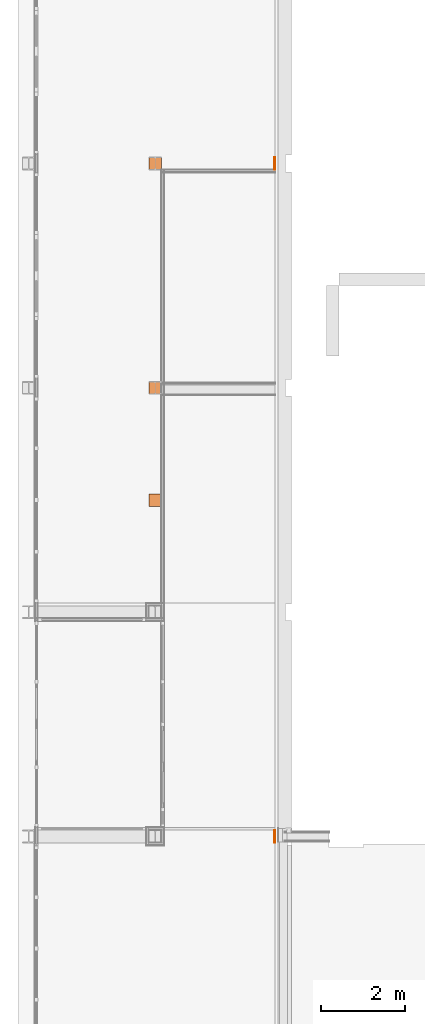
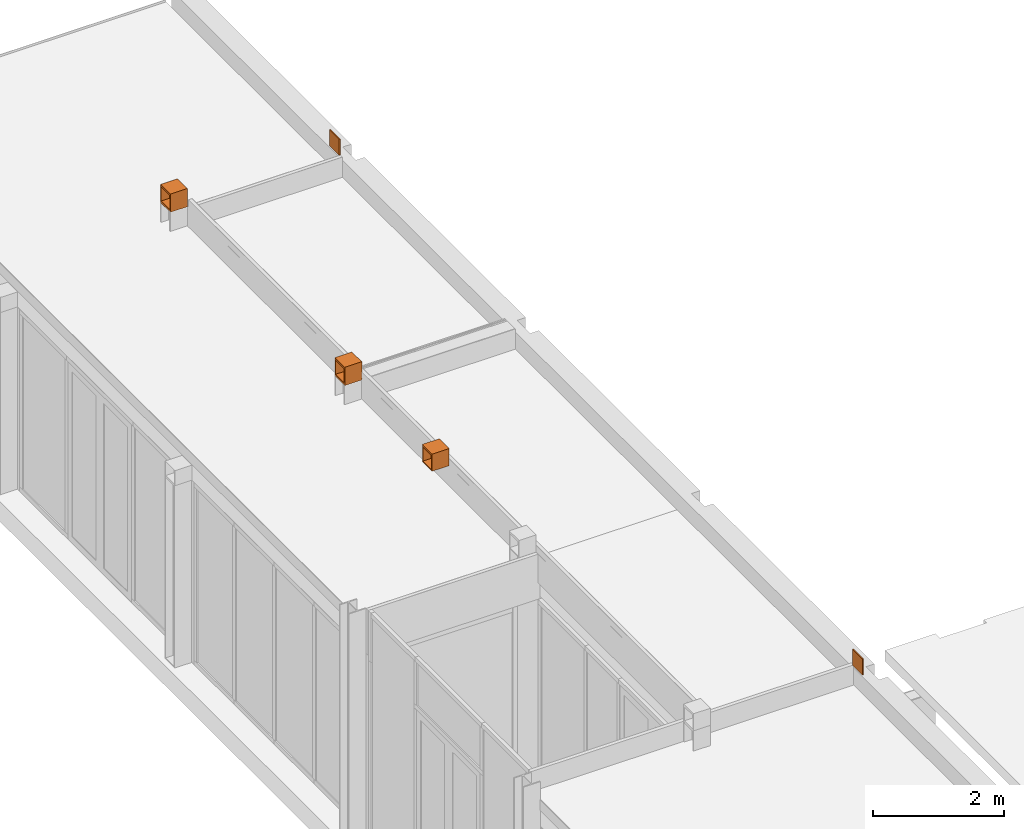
# One storey, part 99 of 99: 5 proxies.
"""IFC2X3 building model written with IfcOpenShell, lengths in millimetres."""

from ifc_helpers import new_model, entity, si_unit, converted_unit, derived_unit, money_unit, direction, frame, origin_with_axes, place, context, subcontext, project, spatial, faceted_brep, material, type_object, element, save


model = new_model("IFC2X3")

# Units and contexts
model_context = context("Model", 3, precision=0.01, world=origin_with_axes(), true_north=direction((0.0, 1.0)))
body_context = subcontext(model_context, "Body", "Model", "MODEL_VIEW")
ifc_project = project(units=[si_unit("LENGTHUNIT", "METRE", prefix="MILLI"), si_unit("AREAUNIT", "SQUARE_METRE"), si_unit("VOLUMEUNIT", "CUBIC_METRE"), converted_unit("PLANEANGLEUNIT", "DEGREE", entity("IfcPlaneAngleMeasure", 0.0174532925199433), si_unit("PLANEANGLEUNIT", "RADIAN"), dimensions=[0, 0, 0, 0, 0, 0, 0]), money_unit("EUR"), converted_unit("TIMEUNIT", "Year", entity("IfcTimeMeasure", 31557600.0), si_unit("TIMEUNIT", "SECOND"), dimensions=[0, 0, 1, 0, 0, 0, 0]), si_unit("MASSUNIT", "GRAM", prefix="KILO"), si_unit("THERMODYNAMICTEMPERATUREUNIT", "DEGREE_CELSIUS"), si_unit("LUMINOUSINTENSITYUNIT", "LUMEN"), si_unit("ENERGYUNIT", "JOULE", prefix="MEGA"), derived_unit("THERMALCONDUCTANCEUNIT", [(si_unit("POWERUNIT", "WATT"), 1), (si_unit("LENGTHUNIT", "METRE"), -1), (si_unit("THERMODYNAMICTEMPERATUREUNIT", "KELVIN"), -1)]), derived_unit("SPECIFICHEATCAPACITYUNIT", [(si_unit("ENERGYUNIT", "JOULE"), 1), (si_unit("MASSUNIT", "GRAM", prefix="KILO"), -1), (si_unit("THERMODYNAMICTEMPERATUREUNIT", "KELVIN"), -1)]), derived_unit("MASSDENSITYUNIT", [(si_unit("MASSUNIT", "GRAM", prefix="KILO"), 1), (si_unit("VOLUMEUNIT", "CUBIC_METRE"), -1)])], contexts=[model_context])

# Site, building, storey
site_placement = place(None, origin_with_axes())
site = spatial("IfcSite", under=ifc_project, at=site_placement, Name="Site", CompositionType="ELEMENT")
building_placement = place(site_placement, origin_with_axes())
building = spatial("IfcBuilding", under=site, at=building_placement, Name="Naam gebouw", CompositionType="ELEMENT")
storey_placement = place(building_placement, frame((0.0, 0.0, 7650.0), z_axis=(0.0, 0.0, 1.0), x_axis=(1.0, 0.0, 0.0)))
storey = spatial("IfcBuildingStorey", under=building, at=storey_placement, Name="2e verdieping N", CompositionType="ELEMENT", Elevation=7650.0)

# Proxies
ifc_material = material(Name="staal geanodiseerd RAL 7024")
building_element_proxy_type_1 = type_object("IfcBuildingElementProxyType", Name="Structural Connections 256:Structural Connections 1", PredefinedType="NOTDEFINED")
proxy_1_placement = place(storey_placement, frame((28651.00001266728, 25295.91242503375, -3500.0), z_axis=(0.0, 0.0, 1.0), x_axis=(0.0, 1.0, 0.0)))
element("IfcBuildingElementProxy", 1, at=proxy_1_placement, inside=storey, type_object=building_element_proxy_type_1, material=ifc_material, Name="Structural Connections 256:Structural Connections 1", context=body_context, shape_type="Brep", body=[
    faceted_brep([(13170.00000127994, 11209.00001265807, 4240.0), (13470.00000127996, 11209.00001265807, 4240.0), (13470.00000127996, 11209.00001265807, 4260.0), (13170.00000127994, 11209.00001265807, 4260.0), (13170.00000127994, 11509.00001265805, 4240.0), (13470.00000127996, 11509.00001265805, 4240.0), (13470.00000127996, 11509.00001265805, 4260.0), (13170.00000127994, 11509.00001265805, 4260.0)], [[[0, 1, 2, 3]], [[0, 4, 5, 1]], [[1, 5, 6, 2]], [[3, 2, 6, 7]], [[4, 0, 3, 7]], [[5, 4, 7, 6]]]),
    faceted_brep([(13170.00000127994, 11209.00001265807, 4520.0), (13470.00000127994, 11209.00001265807, 4520.0), (13470.00000127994, 11209.00001265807, 4539.999999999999), (13170.00000127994, 11209.00001265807, 4539.999999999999), (13170.00000127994, 11509.00001265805, 4520.0), (13470.00000127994, 11509.00001265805, 4520.0), (13470.00000127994, 11509.00001265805, 4539.999999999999), (13170.00000127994, 11509.00001265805, 4539.999999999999)], [[[0, 1, 2, 3]], [[0, 4, 5, 1]], [[1, 5, 6, 2]], [[3, 2, 6, 7]], [[4, 0, 3, 7]], [[5, 4, 7, 6]]]),
    faceted_brep([(13170.00000127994, 11209.00001265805, 4540.0), (13470.00000127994, 11209.00001265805, 4540.0), (13470.00000127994, 11209.00001265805, 4560.0), (13170.00000127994, 11209.00001265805, 4560.0), (13170.00000127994, 11509.00001265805, 4540.0), (13470.00000127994, 11509.00001265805, 4540.0), (13470.00000127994, 11509.00001265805, 4560.0), (13170.00000127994, 11509.00001265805, 4560.0)], [[[0, 1, 2, 3]], [[0, 4, 5, 1]], [[1, 5, 6, 2]], [[3, 2, 6, 7]], [[4, 0, 3, 7]], [[5, 4, 7, 6]]]),
    faceted_brep([(13170.00000127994, 11209.00001265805, 4220.0), (13470.00000127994, 11209.00001265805, 4220.0), (13470.00000127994, 11209.00001265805, 4239.999999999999), (13170.00000127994, 11209.00001265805, 4239.999999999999), (13170.00000127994, 11509.00001265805, 4220.0), (13470.00000127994, 11509.00001265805, 4220.0), (13470.00000127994, 11509.00001265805, 4239.999999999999), (13170.00000127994, 11509.00001265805, 4239.999999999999)], [[[0, 1, 2, 3]], [[0, 4, 5, 1]], [[1, 5, 6, 2]], [[3, 2, 6, 7]], [[4, 0, 3, 7]], [[5, 4, 7, 6]]]),
    faceted_brep([(13189.00000127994, 11209.00001265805, 4540.0), (13170.00000127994, 11209.00001265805, 4540.0), (13170.00000127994, 11209.00001265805, 4240.0), (13189.00000127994, 11209.00001265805, 4240.0), (13189.00000127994, 11353.50001265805, 4540.0), (13451.00000127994, 11353.50001265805, 4540.0), (13451.00000127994, 11209.00001265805, 4540.0), (13470.00000127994, 11209.00001265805, 4540.0), (13470.00000127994, 11509.00001265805, 4540.0), (13451.00000127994, 11509.00001265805, 4540.0), (13451.00000127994, 11364.50001265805, 4540.0), (13189.00000127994, 11364.50001265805, 4540.0), (13189.00000127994, 11509.00001265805, 4540.0), (13170.00000127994, 11509.00001265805, 4540.0), (13170.00000127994, 11509.00001265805, 4240.0), (13189.00000127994, 11509.00001265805, 4240.0), (13189.00000127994, 11364.50001265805, 4240.0), (13451.00000127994, 11364.50001265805, 4240.0), (13451.00000127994, 11509.00001265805, 4240.0), (13470.00000127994, 11509.00001265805, 4240.0), (13470.00000127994, 11209.00001265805, 4240.0), (13451.00000127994, 11209.00001265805, 4240.0), (13451.00000127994, 11353.50001265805, 4240.0), (13189.00000127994, 11353.50001265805, 4240.0)], [[[0, 1, 2, 3]], [[0, 4, 5, 6, 7, 8, 9, 10, 11, 12, 13, 1]], [[1, 13, 14, 2]], [[3, 2, 14, 15, 16, 17, 18, 19, 20, 21, 22, 23]], [[4, 0, 3, 23]], [[5, 4, 23, 22]], [[6, 5, 22, 21]], [[7, 6, 21, 20]], [[8, 7, 20, 19]], [[9, 8, 19, 18]], [[10, 9, 18, 17]], [[11, 10, 17, 16]], [[12, 11, 16, 15]], [[13, 12, 15, 14]]]),
])
building_element_proxy_type_2 = type_object("IfcBuildingElementProxyType", Name="Structural Connections 250:Structural Connections 1", PredefinedType="NOTDEFINED")
proxy_2_placement = place(storey_placement, frame((28651.00001269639, 22625.91242505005, -3500.0), z_axis=(0.0, 0.0, 1.0), x_axis=(0.0, 1.0, 0.0)))
element("IfcBuildingElementProxy", 2, at=proxy_2_placement, inside=storey, type_object=building_element_proxy_type_2, material=ifc_material, Name="Structural Connections 250:Structural Connections 1", context=body_context, shape_type="Brep", body=[
    faceted_brep([(13170.00000127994, 11209.00001265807, 4240.0), (13470.00000127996, 11209.00001265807, 4240.0), (13470.00000127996, 11209.00001265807, 4260.0), (13170.00000127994, 11209.00001265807, 4260.0), (13170.00000127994, 11509.00001265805, 4240.0), (13470.00000127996, 11509.00001265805, 4240.0), (13470.00000127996, 11509.00001265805, 4260.0), (13170.00000127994, 11509.00001265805, 4260.0)], [[[0, 1, 2, 3]], [[0, 4, 5, 1]], [[1, 5, 6, 2]], [[3, 2, 6, 7]], [[4, 0, 3, 7]], [[5, 4, 7, 6]]]),
    faceted_brep([(13170.00000127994, 11209.00001265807, 4520.0), (13470.00000127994, 11209.00001265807, 4520.0), (13470.00000127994, 11209.00001265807, 4539.999999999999), (13170.00000127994, 11209.00001265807, 4539.999999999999), (13170.00000127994, 11509.00001265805, 4520.0), (13470.00000127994, 11509.00001265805, 4520.0), (13470.00000127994, 11509.00001265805, 4539.999999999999), (13170.00000127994, 11509.00001265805, 4539.999999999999)], [[[0, 1, 2, 3]], [[0, 4, 5, 1]], [[1, 5, 6, 2]], [[3, 2, 6, 7]], [[4, 0, 3, 7]], [[5, 4, 7, 6]]]),
    faceted_brep([(13170.00000127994, 11209.00001265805, 4540.0), (13470.00000127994, 11209.00001265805, 4540.0), (13470.00000127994, 11209.00001265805, 4560.0), (13170.00000127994, 11209.00001265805, 4560.0), (13170.00000127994, 11509.00001265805, 4540.0), (13470.00000127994, 11509.00001265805, 4540.0), (13470.00000127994, 11509.00001265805, 4560.0), (13170.00000127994, 11509.00001265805, 4560.0)], [[[0, 1, 2, 3]], [[0, 4, 5, 1]], [[1, 5, 6, 2]], [[3, 2, 6, 7]], [[4, 0, 3, 7]], [[5, 4, 7, 6]]]),
    faceted_brep([(13189.00000127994, 11209.00001265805, 4540.0), (13170.00000127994, 11209.00001265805, 4540.0), (13170.00000127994, 11209.00001265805, 4240.0), (13189.00000127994, 11209.00001265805, 4240.0), (13189.00000127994, 11353.50001265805, 4540.0), (13451.00000127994, 11353.50001265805, 4540.0), (13451.00000127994, 11209.00001265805, 4540.0), (13470.00000127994, 11209.00001265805, 4540.0), (13470.00000127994, 11509.00001265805, 4540.0), (13451.00000127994, 11509.00001265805, 4540.0), (13451.00000127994, 11364.50001265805, 4540.0), (13189.00000127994, 11364.50001265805, 4540.0), (13189.00000127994, 11509.00001265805, 4540.0), (13170.00000127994, 11509.00001265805, 4540.0), (13170.00000127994, 11509.00001265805, 4240.0), (13189.00000127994, 11509.00001265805, 4240.0), (13189.00000127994, 11364.50001265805, 4240.0), (13451.00000127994, 11364.50001265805, 4240.0), (13451.00000127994, 11509.00001265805, 4240.0), (13470.00000127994, 11509.00001265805, 4240.0), (13470.00000127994, 11209.00001265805, 4240.0), (13451.00000127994, 11209.00001265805, 4240.0), (13451.00000127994, 11353.50001265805, 4240.0), (13189.00000127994, 11353.50001265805, 4240.0)], [[[0, 1, 2, 3]], [[0, 4, 5, 6, 7, 8, 9, 10, 11, 12, 13, 1]], [[1, 13, 14, 2]], [[3, 2, 14, 15, 16, 17, 18, 19, 20, 21, 22, 23]], [[4, 0, 3, 23]], [[5, 4, 23, 22]], [[6, 5, 22, 21]], [[7, 6, 21, 20]], [[8, 7, 20, 19]], [[9, 8, 19, 18]], [[10, 9, 18, 17]], [[11, 10, 17, 16]], [[12, 11, 16, 15]], [[13, 12, 15, 14]]]),
])
building_element_proxy_type_3 = type_object("IfcBuildingElementProxyType", Name="Structural Connections 245:Structural Connections 1", PredefinedType="NOTDEFINED")
proxy_3_placement = place(storey_placement, frame((28651.00001269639, 22625.91242505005, -3500.0), z_axis=(0.0, 0.0, 1.0), x_axis=(0.0, 1.0, 0.0)))
element("IfcBuildingElementProxy", 3, at=proxy_3_placement, inside=storey, type_object=building_element_proxy_type_3, material=ifc_material, Name="Structural Connections 245:Structural Connections 1", context=body_context, shape_type="Brep", body=[
    faceted_brep([(21470.0000012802, 8510.00001265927, 4240.0), (21470.0000012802, 8529.00001265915, 4240.0), (21470.0000012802, 8529.00001265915, 4540.0), (21470.0000012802, 8510.00001265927, 4540.0), (21170.00000128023, 8510.00001265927, 4240.0), (21170.00000128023, 8529.00001265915, 4240.0), (21170.00000128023, 8529.00001265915, 4540.0), (21170.00000128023, 8510.00001265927, 4540.0)], [[[0, 1, 2, 3]], [[0, 4, 5, 1]], [[1, 5, 6, 2]], [[3, 2, 6, 7]], [[4, 0, 3, 7]], [[5, 4, 7, 6]]]),
])
building_element_proxy_type_4 = type_object("IfcBuildingElementProxyType", Name="Structural Connections 244:Structural Connections 1", PredefinedType="NOTDEFINED")
proxy_4_placement = place(storey_placement, frame((28651.00001269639, 22625.91242505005, -3500.0), z_axis=(0.0, 0.0, 1.0), x_axis=(0.0, 1.0, 0.0)))
element("IfcBuildingElementProxy", 4, at=proxy_4_placement, inside=storey, type_object=building_element_proxy_type_4, material=ifc_material, Name="Structural Connections 244:Structural Connections 1", context=body_context, shape_type="Brep", body=[
    faceted_brep([(5180.00000128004, 8510.00001265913, 4240.0), (5480.000001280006, 8510.00001265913, 4240.0), (5480.000001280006, 8510.00001265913, 4540.0), (5180.00000128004, 8510.00001265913, 4540.0), (5180.00000128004, 8529.00001265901, 4240.0), (5480.000001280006, 8529.00001265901, 4240.0), (5480.000001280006, 8529.00001265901, 4540.0), (5180.00000128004, 8529.00001265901, 4540.0)], [[[0, 1, 2, 3]], [[0, 4, 5, 1]], [[1, 5, 6, 2]], [[3, 2, 6, 7]], [[4, 0, 3, 7]], [[5, 4, 7, 6]]]),
])
building_element_proxy_type_5 = type_object("IfcBuildingElementProxyType", Name="Structural Connections 236:Structural Connections 1", PredefinedType="NOTDEFINED")
proxy_5_placement = place(storey_placement, frame((28651.00001269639, 22625.91242505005, -3500.0), z_axis=(0.0, 0.0, 1.0), x_axis=(0.0, 1.0, 0.0)))
element("IfcBuildingElementProxy", 5, at=proxy_5_placement, inside=storey, type_object=building_element_proxy_type_5, material=ifc_material, Name="Structural Connections 236:Structural Connections 1", context=body_context, shape_type="Brep", body=[
    faceted_brep([(21170.00000128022, 11509.00001265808, 4240.0), (21170.00000128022, 11209.0000126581, 4240.0), (21170.00000128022, 11209.0000126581, 4260.0), (21170.00000128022, 11509.00001265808, 4260.0), (21470.00000128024, 11509.00001265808, 4240.0), (21470.00000128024, 11209.0000126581, 4240.0), (21470.00000128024, 11209.0000126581, 4260.0), (21470.00000128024, 11509.00001265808, 4260.0)], [[[0, 1, 2, 3]], [[0, 4, 5, 1]], [[1, 5, 6, 2]], [[3, 2, 6, 7]], [[4, 0, 3, 7]], [[5, 4, 7, 6]]]),
    faceted_brep([(21170.00000128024, 11509.00001265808, 4520.0), (21170.00000128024, 11209.0000126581, 4520.0), (21170.00000128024, 11209.0000126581, 4539.999999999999), (21170.00000128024, 11509.00001265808, 4539.999999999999), (21470.00000128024, 11509.00001265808, 4520.0), (21470.00000128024, 11209.0000126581, 4520.0), (21470.00000128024, 11209.0000126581, 4539.999999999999), (21470.00000128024, 11509.00001265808, 4539.999999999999)], [[[0, 1, 2, 3]], [[0, 4, 5, 1]], [[1, 5, 6, 2]], [[3, 2, 6, 7]], [[4, 0, 3, 7]], [[5, 4, 7, 6]]]),
    faceted_brep([(21170.00000128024, 11509.00001265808, 4540.0), (21170.00000128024, 11209.00001265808, 4540.0), (21170.00000128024, 11209.00001265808, 4560.0), (21170.00000128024, 11509.00001265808, 4560.0), (21470.00000128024, 11509.00001265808, 4540.0), (21470.00000128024, 11209.00001265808, 4540.0), (21470.00000128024, 11209.00001265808, 4560.0), (21470.00000128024, 11509.00001265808, 4560.0)], [[[0, 1, 2, 3]], [[0, 4, 5, 1]], [[1, 5, 6, 2]], [[3, 2, 6, 7]], [[4, 0, 3, 7]], [[5, 4, 7, 6]]]),
    faceted_brep([(21170.00000128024, 11509.00001265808, 4220.0), (21170.00000128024, 11209.00001265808, 4220.0), (21170.00000128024, 11209.00001265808, 4239.999999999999), (21170.00000128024, 11509.00001265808, 4239.999999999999), (21470.00000128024, 11509.00001265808, 4220.0), (21470.00000128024, 11209.00001265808, 4220.0), (21470.00000128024, 11209.00001265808, 4239.999999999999), (21470.00000128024, 11509.00001265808, 4239.999999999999)], [[[0, 1, 2, 3]], [[0, 4, 5, 1]], [[1, 5, 6, 2]], [[3, 2, 6, 7]], [[4, 0, 3, 7]], [[5, 4, 7, 6]]]),
    faceted_brep([(21451.00000128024, 11209.00001265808, 4240.0), (21470.00000128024, 11209.00001265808, 4240.0), (21470.00000128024, 11209.00001265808, 4540.0), (21451.00000128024, 11209.00001265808, 4540.0), (21451.00000128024, 11353.50001265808, 4240.0), (21189.00000128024, 11353.50001265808, 4240.0), (21189.00000128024, 11209.00001265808, 4240.0), (21170.00000128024, 11209.00001265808, 4240.0), (21170.00000128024, 11509.00001265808, 4240.0), (21189.00000128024, 11509.00001265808, 4240.0), (21189.00000128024, 11364.50001265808, 4240.0), (21451.00000128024, 11364.50001265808, 4240.0), (21451.00000128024, 11509.00001265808, 4240.0), (21470.00000128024, 11509.00001265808, 4240.0), (21470.00000128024, 11509.00001265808, 4540.0), (21451.00000128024, 11509.00001265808, 4540.0), (21451.00000128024, 11364.50001265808, 4540.0), (21189.00000128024, 11364.50001265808, 4540.0), (21189.00000128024, 11509.00001265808, 4540.0), (21170.00000128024, 11509.00001265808, 4540.0), (21170.00000128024, 11209.00001265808, 4540.0), (21189.00000128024, 11209.00001265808, 4540.0), (21189.00000128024, 11353.50001265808, 4540.0), (21451.00000128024, 11353.50001265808, 4540.0)], [[[0, 1, 2, 3]], [[0, 4, 5, 6, 7, 8, 9, 10, 11, 12, 13, 1]], [[1, 13, 14, 2]], [[3, 2, 14, 15, 16, 17, 18, 19, 20, 21, 22, 23]], [[4, 0, 3, 23]], [[5, 4, 23, 22]], [[6, 5, 22, 21]], [[7, 6, 21, 20]], [[8, 7, 20, 19]], [[9, 8, 19, 18]], [[10, 9, 18, 17]], [[11, 10, 17, 16]], [[12, 11, 16, 15]], [[13, 12, 15, 14]]]),
])

save(model, "model.ifc")
